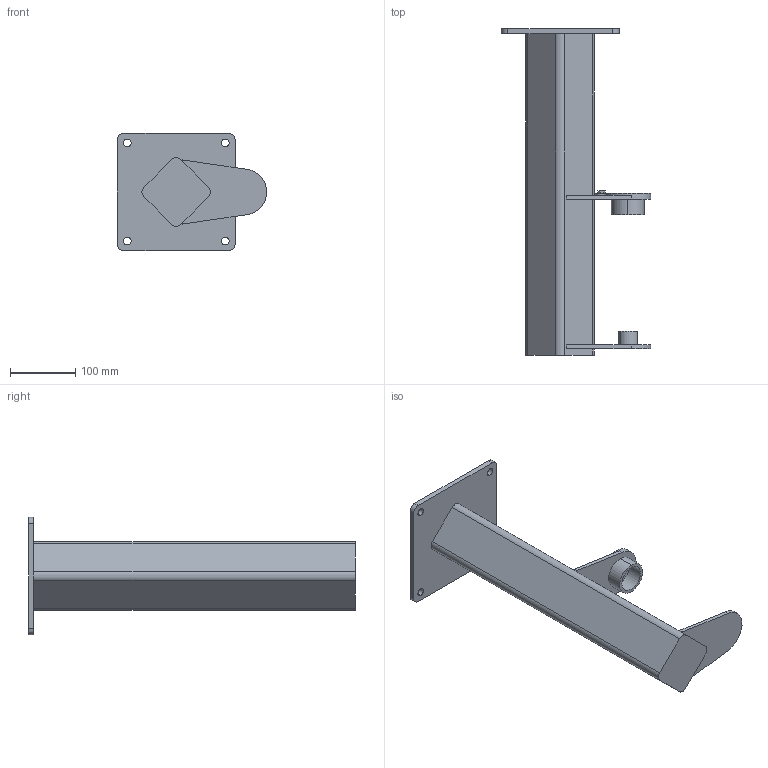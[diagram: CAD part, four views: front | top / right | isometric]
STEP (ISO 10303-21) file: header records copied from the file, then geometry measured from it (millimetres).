
FILE_DESCRIPTION((''),'2;1');
FILE_NAME('PTZ_500_100-6315','2019-08-23T13:53:04',('Tomas Bellgran'),(''),'CREO PARAMETRIC BY PTC INC, 2018260','CREO PARAMETRIC BY PTC INC, 2018260','');
FILE_SCHEMA(('AUTOMOTIVE_DESIGN { 1 0 10303 214 1 1 1 1 }'));
Length unit declared in the file: millimetre
Products named in the file (1): PTZ_500_100-6315
Bounding box: 228.42 x 500 x 180 mm (x, y, z)
Volume: 3497770.2 mm3; surface area: 261878.9 mm2
Topology: 1 solids, 1 shells, 65 faces, 172 edges, 114 vertices
Faces by surface type: cylinder 33, plane 30, cone 2
Entity records: 2256 total; most frequent: DIRECTION 385, CARTESIAN_POINT 362, ORIENTED_EDGE 344, EDGE_CURVE 172, AXIS2_PLACEMENT_3D 140, VERTEX_POINT 114, VECTOR 102, LINE 102
